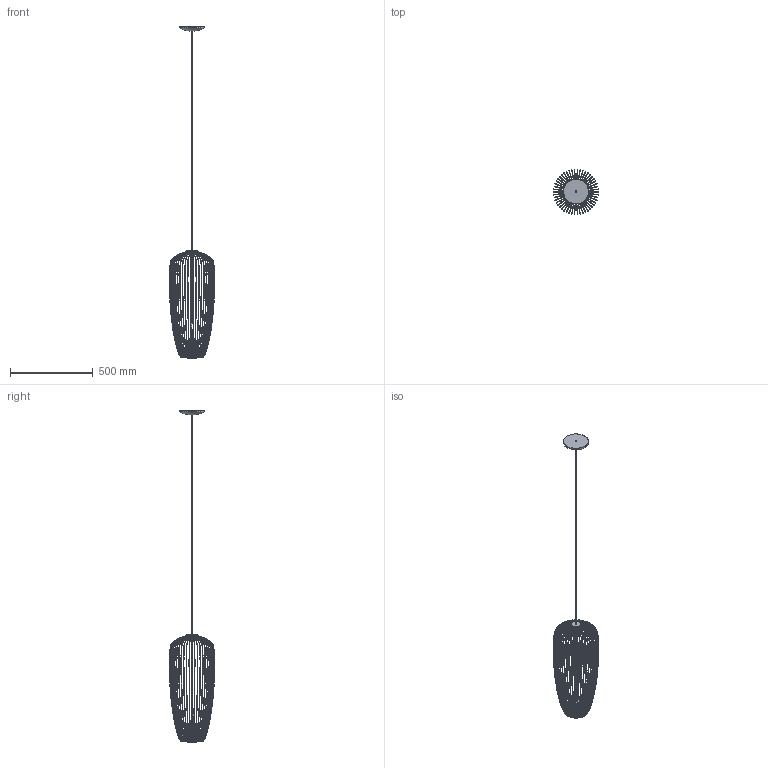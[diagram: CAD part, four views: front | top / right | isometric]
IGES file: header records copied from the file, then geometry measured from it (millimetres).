
Start section: SolidWorks IGES file using analytic representation for surfaces
Global section: file name: Y:\PRODUKT\Modele_3D_WWW\_KOLEKCJE_WWW\PUMPKIN\PUMPKIN S\SPumpkin S PM.IGS; native system: SolidWorks 2023; preprocessor: SolidWorks 2023; author: anna.bielnik; date: 240510.131412; units: millimetre
Bounding box: 273.02 x 272.6 x 2000.01 mm (x, y, z)
Surface area: 465803.1 mm2 (no closed solid volume)
Topology: 0 solids, 0 shells, 2354 faces, 31406 edges, 31406 vertices
Faces by surface type: bspline 1784, revolution 570
